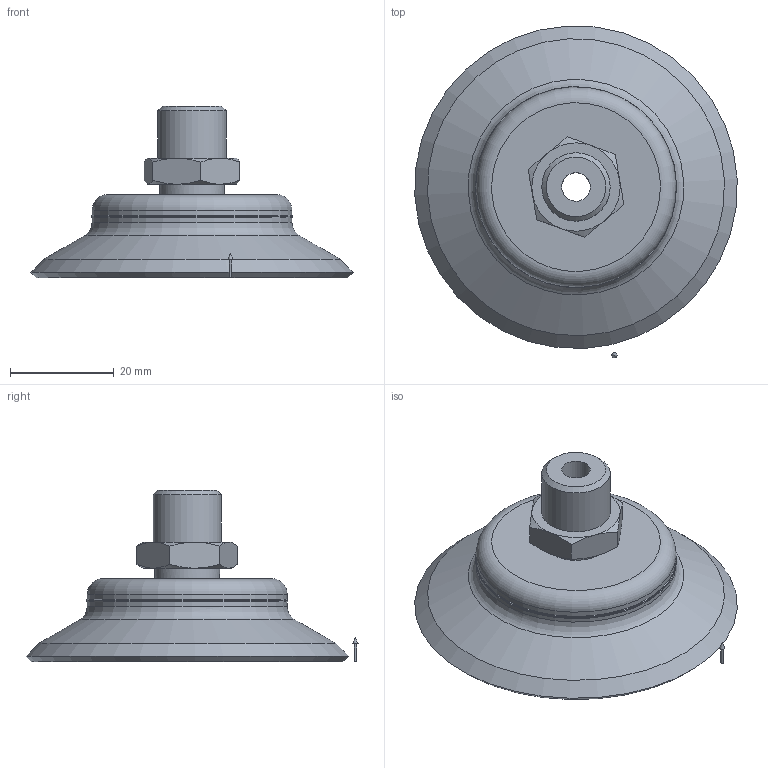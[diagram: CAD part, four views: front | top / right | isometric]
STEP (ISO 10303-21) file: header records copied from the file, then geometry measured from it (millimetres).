
FILE_DESCRIPTION(('STEP AP214'),'1');
FILE_NAME('KIT.08.28.D60.stp','2019-05-27T10:23:05',(' '),(' '),'Spatial InterOp 3D',' ',' ');
FILE_SCHEMA(('AUTOMOTIVE_DESIGN { 1 0 10303 214 1 1 1 1 }'));
Length unit declared in the file: millimetre
Products named in the file (3): KIT.08.28.D60; CA.08.09.019; CA.08.28.012
Assembly tree (2 placements, depth 2):
  KIT.08.28.D60
    CA.08.09.019
    CA.08.28.012
Bounding box: 62.04 x 63.89 x 33 mm (x, y, z)
Volume: 19803.1 mm3; surface area: 9750.9 mm2
Topology: 3 solids, 3 shells, 55 faces, 109 edges, 66 vertices
Faces by surface type: cone 20, plane 18, cylinder 13, torus 4
Full cylindrical faces by diameter (mm): 0.5 x1, 5.5 x1, 9 x1, 10 x2, 10.5 x2, 12.5 x2, 13.157 x1, 38.5 x3
Entity records: 1803 total; most frequent: CARTESIAN_POINT 343, DIRECTION 210, ORIENTED_EDGE 154, AXIS2_PLACEMENT_3D 102, EDGE_LOOP 90, EDGE_CURVE 77, FACE_OUTER_BOUND 72, VERTEX_POINT 60
